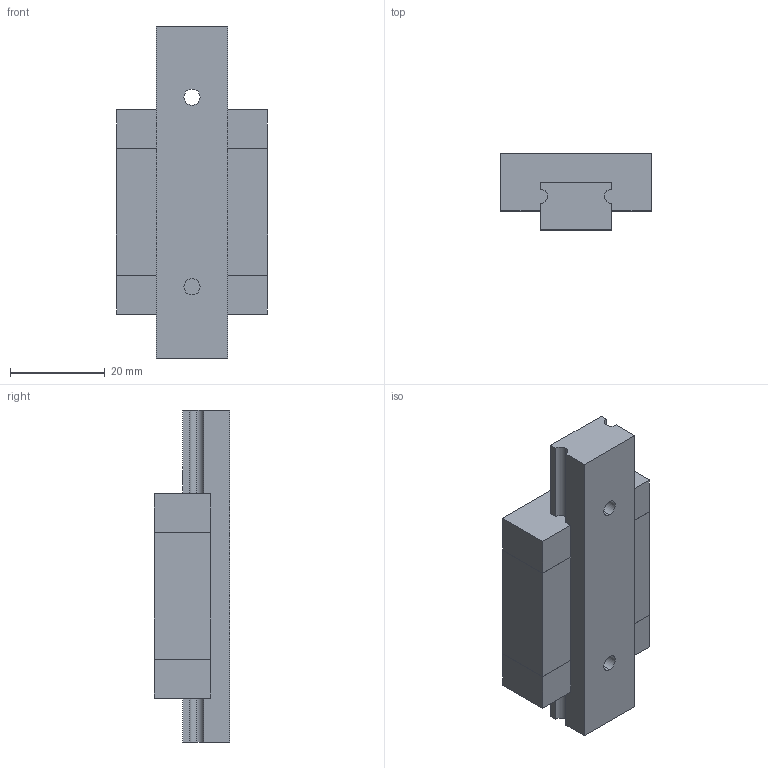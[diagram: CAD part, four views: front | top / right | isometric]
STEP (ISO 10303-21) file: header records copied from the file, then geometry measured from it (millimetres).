
FILE_DESCRIPTION (( 'STEP AP203' ), '1' );
FILE_NAME ('MCM 15.STEP', '2018-06-19T01:13:52', ( '' ), ( '' ), 'SwSTEP 2.0', 'SolidWorks 2016', '' );
FILE_SCHEMA (( 'CONFIG_CONTROL_DESIGN' ));
Length unit declared in the file: millimetre
Products named in the file (3): MCM 15; MCM TABLE 15 - 70; MCM BASE 15 - 70
Assembly tree (2 placements, depth 2):
  MCM 15
    MCM TABLE 15 - 70
    MCM BASE 15 - 70
Bounding box: 32 x 16 x 70 mm (x, y, z)
Volume: 22484.5 mm3; surface area: 10684.6 mm2
Topology: 4 solids, 4 shells, 82 faces, 208 edges, 132 vertices
Faces by surface type: plane 46, cylinder 28, cone 8
Entity records: 2717 total; most frequent: DIRECTION 430, CARTESIAN_POINT 419, ORIENTED_EDGE 400, EDGE_CURVE 200, VECTOR 144, LINE 144, AXIS2_PLACEMENT_3D 143, VERTEX_POINT 132
